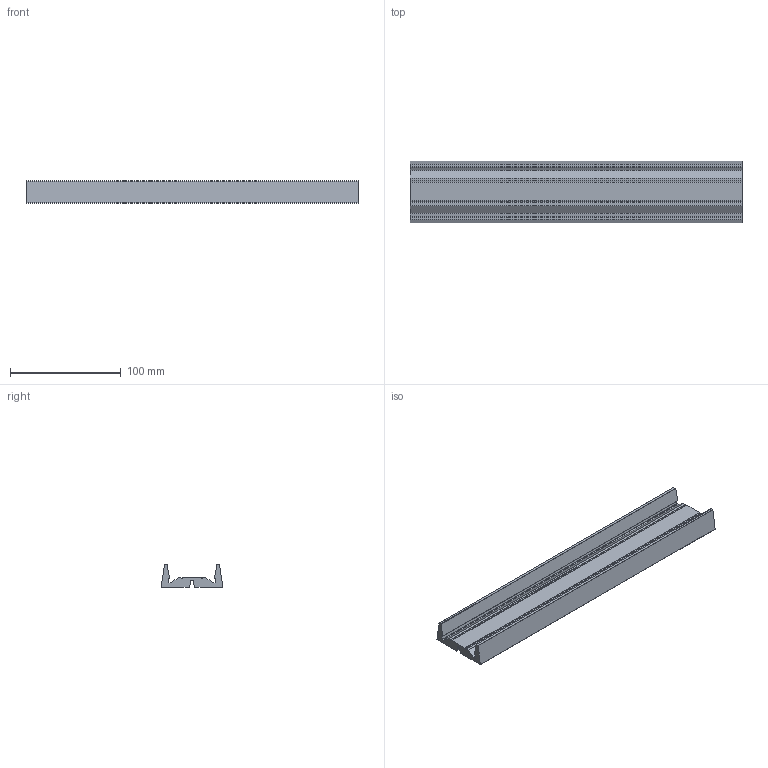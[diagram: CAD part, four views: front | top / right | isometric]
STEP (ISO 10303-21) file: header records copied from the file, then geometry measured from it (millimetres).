
FILE_DESCRIPTION(('CATIA V5 STEP Exchange'),'2;1');
FILE_NAME('Z:\Engineering\Design Library\Linnea\Alumiini_päätypalat_ohutlevy\20161215 LeY\C16057_ALUMINIUM-EXTRUSION-PROFILE 20161215.stp','2016-12-15T13:03:07+00:00',('none'),('none'),'CATIA Version 5-6 Release 2013 SP4','CATIA V5 STEP AP203','none');
FILE_SCHEMA(('CONFIG_CONTROL_DESIGN'));
Length unit declared in the file: millimetre
Products named in the file (1): C16057
Bounding box: 300 x 55.56 x 20 mm (x, y, z)
Volume: 148406.3 mm3; surface area: 58422.5 mm2
Topology: 1 solids, 1 shells, 48 faces, 138 edges, 92 vertices
Faces by surface type: cylinder 25, plane 23
Entity records: 1553 total; most frequent: ORIENTED_EDGE 276, CARTESIAN_POINT 273, DIRECTION 222, EDGE_CURVE 138, AXIS2_PLACEMENT_3D 93, VERTEX_POINT 92, VECTOR 88, LINE 88
